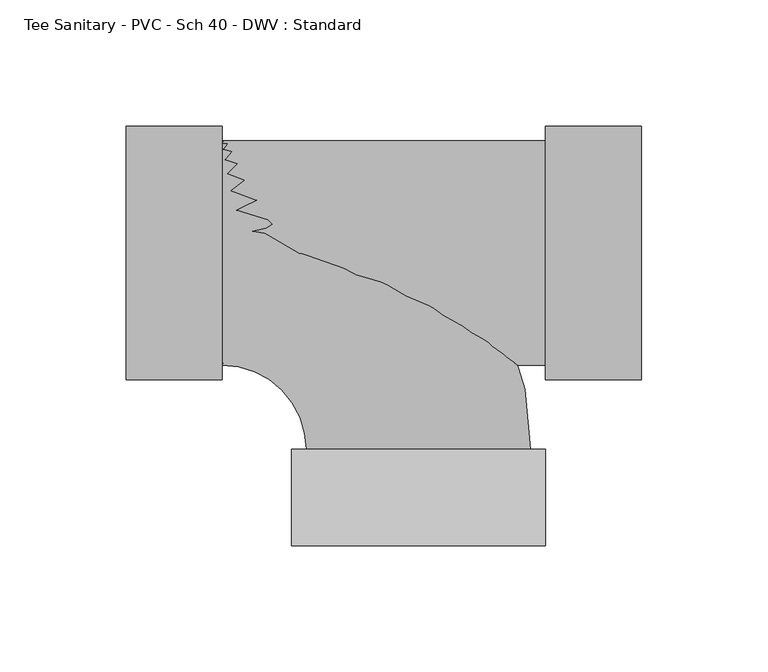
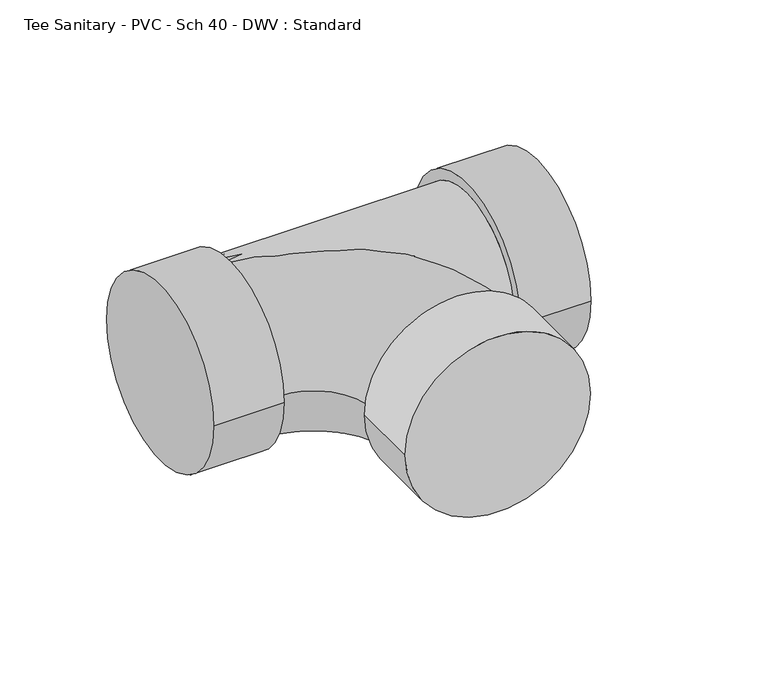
"""IFC4 building model written with IfcOpenShell, lengths in millimetres: pipe fitting geometry, Tee Sanitary - PVC - Sch 40 - DWV : Standard."""

from ifc_helpers import new_model, si_unit, point, frame, origin, place, context, project, spatial, circle_curve, ellipse_curve, trimmed, source, transform, mapped, element, save
from ifc_brep_helpers import plane_surface, cylinder_surface, revolved_surface, advanced_brep


def tee_sanitary_pvc_sch_40_dwv_standard_8cfb1b04(model_context):
    return source(origin(), model_context, "Body", "AdvancedBrep", [
        advanced_brep(
        [(-77.8002, -44.45, 0.0), (-77.8002, 44.45, 0.0), (-44.4155997, -77.819844, 0.0), (44.4843916, -77.7805408, 0.0), (50.3178353, -115.8779655, 0.0), (-50.2153549, -115.9224118, 0.0), (50.300991, -77.7779692, 0.0), (-50.2321991, -77.8224156, 0.0)],
        [
            (0, 1, circle_curve(frame((-77.8002, 0.0, 0.0), z_axis=(-1.0, 0.0, 0.0), x_axis=(0.0, 1.0, 0.0)), 44.45)),
            (1, 0, circle_curve(frame((-77.8002, 0.0, 0.0), z_axis=(-1.0, 0.0, 0.0), x_axis=(0.0, 1.0, 0.0)), 44.45)),
            (0, 2, circle_curve(frame((-77.8002, -77.8346035, 0.0), z_axis=(0.0, 0.0, -1.0), x_axis=(0.0, 1.0, 0.0)), 33.3846035)),
            (2, 3, circle_curve(frame((0.0343959, -77.8001924, 0.0), z_axis=(-0.00044210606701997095, 0.999999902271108, 0.0), x_axis=(0.999999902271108, 0.00044210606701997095, 0.0)), 44.45)),
            (3, 1, circle_curve(frame((-77.8002, -77.8346035, 0.0), z_axis=(0.0, 0.0, 1.0), x_axis=(0.0, 1.0, 0.0)), 122.2846035)),
            (3, 2, circle_curve(frame((0.0343959, -77.8001924, 0.0), z_axis=(-0.00044210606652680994, 0.9999999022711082, 0.0), x_axis=(0.9999999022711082, 0.00044210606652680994, 0.0)), 44.45)),
            (4, 5, circle_curve(frame((0.0512402, -115.9001887, 0.0), z_axis=(0.0004421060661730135, -0.9999999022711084, 0.0), x_axis=(-0.9999999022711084, -0.0004421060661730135, 0.0)), 50.2666)),
            (5, 4, circle_curve(frame((0.0512402, -115.9001887, 0.0), z_axis=(0.0004421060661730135, -0.9999999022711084, 0.0), x_axis=(-0.9999999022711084, -0.0004421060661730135, 0.0)), 50.2666)),
            (6, 7, circle_curve(frame((0.0343959, -77.8001924, 0.0), z_axis=(-0.0004421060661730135, 0.9999999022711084, 0.0), x_axis=(-0.9999999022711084, -0.0004421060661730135, 0.0)), 50.2666)),
            (7, 6, circle_curve(frame((0.0343959, -77.8001924, 0.0), z_axis=(-0.0004421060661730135, 0.9999999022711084, 0.0), x_axis=(-0.9999999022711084, -0.0004421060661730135, 0.0)), 50.2666)),
            (4, 6),
            (7, 5),
        ],
        [
            plane_surface(frame((-77.8002, 0.0, 0.0), z_axis=(-1.0, 0.0, 0.0), x_axis=(0.0, 0.0, 1.0))),
            revolved_surface(trimmed(ellipse_curve(frame((-77.8002, 0.0, 0.0), z_axis=(-1.0, 0.0, 0.0), x_axis=(0.0, 1.0, 0.0)), 44.45, 44.45), [point((-77.8002, -44.45, 0.0))], [point((-77.8002, 44.45, 0.0))], True, "CARTESIAN"), (-77.8002, -77.8346035, 0.0), (0.0, 0.0, -1.0)),
            revolved_surface(trimmed(ellipse_curve(frame((-77.8002, 0.0, 0.0), z_axis=(-1.0, 0.0, 0.0), x_axis=(0.0, 1.0, 0.0)), 44.45, 44.45), [point((-77.8002, 44.45, 0.0))], [point((-77.8002, -44.45, 0.0))], True, "CARTESIAN"), (-77.8002, -77.8346035, 0.0), (0.0, 0.0, -1.0)),
            plane_surface(frame((0.0512402, -115.9001887, 0.0), z_axis=(0.00044210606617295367, -0.9999999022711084, 0.0), x_axis=(0.0, 0.0, 1.0))),
            plane_surface(frame((0.0343959, -77.8001924, 0.0), z_axis=(-0.0004421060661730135, 0.9999999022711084, 0.0), x_axis=(0.0, 0.0, 1.0))),
            cylinder_surface(frame((0.0512402, -115.9001887, 0.0), z_axis=(0.0004421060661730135, -0.9999999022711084, 0.0), x_axis=(-0.9999999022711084, -0.0004421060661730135, 0.0)), 50.2666),
        ],
        [
            (0, [[1, 2]]),
            (1, [[-1, 3, 4, 5]]),
            (2, [[-2, -5, 6, -3]]),
            (3, [[7, 8]]),
            (4, [[9, 10], [-4, -6]]),
            (5, [[-7, 11, -10, 12]]),
            (5, [[-8, -12, -9, -11]]),
        ],
    ),
        advanced_brep(
        [(-77.8002, -44.45, 0.0), (50.300991, -44.45, 0.0), (50.300991, 44.45, 0.0), (-77.8002, 44.45, 0.0), (50.300991, -50.2666, 0.0), (50.300991, 50.2666, 0.0), (88.400991, -50.2666, 0.0), (88.400991, 50.2666, 0.0), (-115.9002, -50.2666, 0.0), (-115.9002, 50.2666, 0.0), (-77.8002, -50.2666, 0.0), (-77.8002, 50.2666, 0.0)],
        [
            (0, 1),
            (1, 2, circle_curve(frame((50.300991, 0.0, 0.0), z_axis=(-1.0, 0.0, 0.0), x_axis=(0.0, 1.0, 0.0)), 44.45)),
            (2, 3),
            (3, 0, circle_curve(frame((-77.8002, 0.0, 0.0), z_axis=(1.0, 0.0, 0.0), x_axis=(0.0, 1.0, 0.0)), 44.45)),
            (0, 3, circle_curve(frame((-77.8002, 0.0, 0.0), z_axis=(1.0, 0.0, 0.0), x_axis=(0.0, 1.0, 0.0)), 44.45)),
            (2, 1, circle_curve(frame((50.300991, 0.0, 0.0), z_axis=(-1.0, 0.0, 0.0), x_axis=(0.0, 1.0, 0.0)), 44.45)),
            (4, 5, circle_curve(frame((50.300991, 0.0, 0.0), z_axis=(-1.0, 0.0, 0.0), x_axis=(0.0, 1.0, 0.0)), 50.2666)),
            (5, 4, circle_curve(frame((50.300991, 0.0, 0.0), z_axis=(-1.0, 0.0, 0.0), x_axis=(0.0, 1.0, 0.0)), 50.2666)),
            (6, 7, circle_curve(frame((88.400991, 0.0, 0.0), z_axis=(1.0, 0.0, 0.0), x_axis=(0.0, 1.0, 0.0)), 50.2666)),
            (7, 6, circle_curve(frame((88.400991, 0.0, 0.0), z_axis=(1.0, 0.0, 0.0), x_axis=(0.0, 1.0, 0.0)), 50.2666)),
            (4, 6),
            (7, 5),
            (8, 9, circle_curve(frame((-115.9002, 0.0, 0.0), z_axis=(-1.0, 0.0, 0.0), x_axis=(0.0, 1.0, 0.0)), 50.2666)),
            (9, 8, circle_curve(frame((-115.9002, 0.0, 0.0), z_axis=(-1.0, 0.0, 0.0), x_axis=(0.0, 1.0, 0.0)), 50.2666)),
            (10, 11, circle_curve(frame((-77.8002, 0.0, 0.0), z_axis=(1.0, 0.0, 0.0), x_axis=(0.0, 1.0, 0.0)), 50.2666)),
            (11, 10, circle_curve(frame((-77.8002, 0.0, 0.0), z_axis=(1.0, 0.0, 0.0), x_axis=(0.0, 1.0, 0.0)), 50.2666)),
            (8, 10),
            (11, 9),
        ],
        [
            cylinder_surface(frame((-77.8002, 0.0, 0.0), z_axis=(-1.0, 0.0, 0.0), x_axis=(0.0, 1.0, 0.0)), 44.45),
            plane_surface(frame((50.300991, 0.0, 0.0), z_axis=(-1.0, 0.0, 0.0), x_axis=(0.0, 0.0, 1.0))),
            plane_surface(frame((88.400991, 0.0, 0.0), z_axis=(1.0, 0.0, 0.0), x_axis=(0.0, 0.0, 1.0))),
            cylinder_surface(frame((50.300991, 0.0, 0.0), z_axis=(-1.0, 0.0, 0.0), x_axis=(0.0, 1.0, 0.0)), 50.2666),
            plane_surface(frame((-115.9002, 0.0, 0.0), z_axis=(-1.0, 0.0, 0.0), x_axis=(0.0, 0.0, 1.0))),
            plane_surface(frame((-77.8002, 0.0, 0.0), z_axis=(1.0, 0.0, 0.0), x_axis=(0.0, 0.0, 1.0))),
            cylinder_surface(frame((-115.9002, 0.0, 0.0), z_axis=(-1.0, 0.0, 0.0), x_axis=(0.0, 1.0, 0.0)), 50.2666),
        ],
        [
            (0, [[1, 2, 3, 4]]),
            (0, [[-1, 5, -3, 6]]),
            (1, [[7, 8], [-2, -6]]),
            (2, [[9, 10]]),
            (3, [[-7, 11, -10, 12]]),
            (3, [[-8, -12, -9, -11]]),
            (4, [[13, 14]]),
            (5, [[15, 16], [-4, -5]]),
            (6, [[-13, 17, -16, 18]]),
            (6, [[-14, -18, -15, -17]]),
        ],
    ),
    ])


if __name__ == "__main__":
    model = new_model("IFC4")
    model_context = context("Model", 3, world=origin())
    ifc_project = project(units=[si_unit("LENGTHUNIT", "METRE", prefix="MILLI")], contexts=[model_context])
    site = spatial("IfcSite", under=ifc_project)
    building = spatial("IfcBuilding", under=site)
    placement = place(None, origin())
    tee_sanitary_pvc_sch_40_dwv_standard_shape = tee_sanitary_pvc_sch_40_dwv_standard_8cfb1b04(model_context)
    element("IfcPipeFitting", 1, ObjectType="Tee Sanitary - PVC - Sch 40 - DWV : Standard", at=placement, inside=building, context=model_context, shape_type="MappedRepresentation", body=[
        mapped(tee_sanitary_pvc_sch_40_dwv_standard_shape, transform((0.0, 0.0, 0.0), x_axis=(1.0, 0.0, 0.0), y_axis=(0.0, 1.0, 0.0), z_axis=(0.0, 0.0, 1.0))),
    ])
    save(model, "model.ifc")
